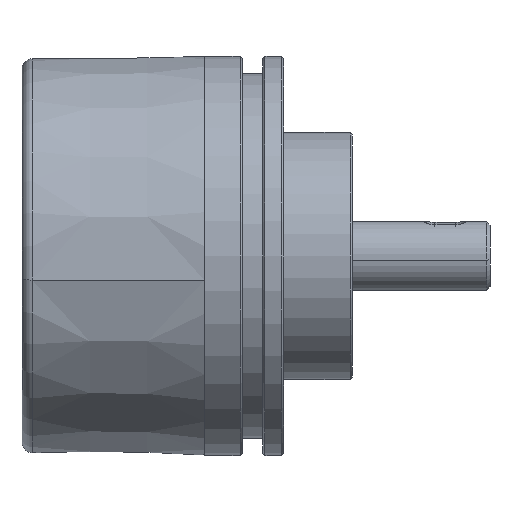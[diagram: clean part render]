
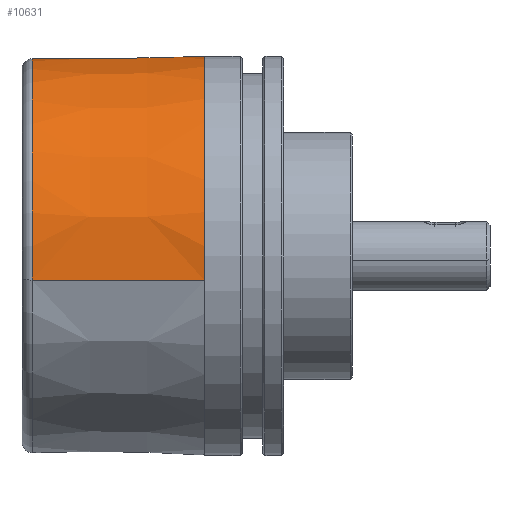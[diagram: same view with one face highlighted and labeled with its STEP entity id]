
A CAD part, front view. The second image highlights one B-rep face of the part: STEP entity #10631.
In plain terms, the highlighted conical face has half-angle 0.75 degrees and reference radius 29 mm.
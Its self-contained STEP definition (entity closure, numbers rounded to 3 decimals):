
#2229 = DIRECTION ( 'NONE',  ( 0., 0.993, 0.122 ) ) ;
#2230 = DIRECTION ( 'NONE',  ( 1., 0., 0. ) ) ;
#2231 = CARTESIAN_POINT ( 'NONE',  ( -17.52, 0., 0. ) ) ;
#2232 = AXIS2_PLACEMENT_3D ( 'NONE', #2231, #2230, #2229 ) ;
#2233 = CIRCLE ( 'NONE', #2232, 28.672 ) ;
#2234 = CARTESIAN_POINT ( 'NONE',  ( -17.52, 21.923, 18.479 ) ) ;
#2235 = CARTESIAN_POINT ( 'NONE',  ( -17.52, -28.459, -3.494 ) ) ;
#2284 = CARTESIAN_POINT ( 'NONE',  ( -17.52, 21.923, 18.479 ) ) ;
#2285 = CARTESIAN_POINT ( 'NONE',  ( -14.179, 21.982, 18.477 ) ) ;
#2286 = CARTESIAN_POINT ( 'NONE',  ( -10.838, 22.04, 18.476 ) ) ;
#2287 = CARTESIAN_POINT ( 'NONE',  ( -7.498, 22.099, 18.474 ) ) ;
#2288 = CARTESIAN_POINT ( 'NONE',  ( -3.498, 22.169, 18.472 ) ) ;
#2289 = CARTESIAN_POINT ( 'NONE',  ( 0.501, 22.238, 18.47 ) ) ;
#2290 = CARTESIAN_POINT ( 'NONE',  ( 4.5, 22.308, 18.469 ) ) ;
#2291 = CARTESIAN_POINT ( 'NONE',  ( 5.5, 22.325, 18.468 ) ) ;
#2292 = CARTESIAN_POINT ( 'NONE',  ( 6.5, 22.343, 18.468 ) ) ;
#2293 = CARTESIAN_POINT ( 'NONE',  ( 7.5, 22.36, 18.467 ) ) ;
#2302 = B_SPLINE_CURVE_WITH_KNOTS ( 'NONE', 3,
 ( #2293, #2292, #2291, #2290, #2289, #2288, #2287, #2286, #2285, #2284 ),
 .UNSPECIFIED., .F., .F.,
 ( 4, 3, 3, 4 ),
 ( 0., 0.003, 0.015, 0.025 ),
 .UNSPECIFIED. ) ;
#2429 = FACE_OUTER_BOUND ( 'NONE', #10632, .T. ) ;
#2453 = CARTESIAN_POINT ( 'NONE',  ( 7.5, -28.784, -3.534 ) ) ;
#2454 = DIRECTION ( 'NONE',  ( 1., -0.013, -0.002 ) ) ;
#2455 = VECTOR ( 'NONE', #2454, 1000. ) ;
#2456 = CARTESIAN_POINT ( 'NONE',  ( 7.5, -28.784, -3.534 ) ) ;
#2457 = LINE ( 'NONE', #2456, #2455 ) ;
#2458 = DIRECTION ( 'NONE',  ( 0., -0.993, -0.122 ) ) ;
#2459 = DIRECTION ( 'NONE',  ( 1., 0., 0. ) ) ;
#2460 = CARTESIAN_POINT ( 'NONE',  ( 7.5, 0., 0. ) ) ;
#2461 = AXIS2_PLACEMENT_3D ( 'NONE', #2460, #2459, #2458 ) ;
#2462 = CONICAL_SURFACE ( 'NONE', #2461, 29., 0.013 ) ;
#2506 = DIRECTION ( 'NONE',  ( 0., 0.993, 0.122 ) ) ;
#2507 = DIRECTION ( 'NONE',  ( -1., 0., 0. ) ) ;
#2508 = CARTESIAN_POINT ( 'NONE',  ( 7.5, 0., 0. ) ) ;
#2509 = AXIS2_PLACEMENT_3D ( 'NONE', #2508, #2507, #2506 ) ;
#2510 = CIRCLE ( 'NONE', #2509, 29. ) ;
#2511 = CARTESIAN_POINT ( 'NONE',  ( 7.5, 22.36, 18.467 ) ) ;
#10563 = VERTEX_POINT ( 'NONE', #2235 ) ;
#10565 = EDGE_CURVE ( 'NONE', #10566, #10563, #2233, .T. ) ;
#10566 = VERTEX_POINT ( 'NONE', #2234 ) ;
#10583 = ORIENTED_EDGE ( 'NONE', *, *, #10584, .T. ) ;
#10584 = EDGE_CURVE ( 'NONE', #10639, #10566, #2302, .T. ) ;
#10631 = ADVANCED_FACE ( 'NONE', ( #2429 ), #2462, .T. ) ;
#10632 = EDGE_LOOP ( 'NONE', ( #10633, #10634, #10637, #10583 ) ) ;
#10633 = ORIENTED_EDGE ( 'NONE', *, *, #10565, .T. ) ;
#10634 = ORIENTED_EDGE ( 'NONE', *, *, #10635, .T. ) ;
#10635 = EDGE_CURVE ( 'NONE', #10563, #10636, #2457, .T. ) ;
#10636 = VERTEX_POINT ( 'NONE', #2453 ) ;
#10637 = ORIENTED_EDGE ( 'NONE', *, *, #10638, .T. ) ;
#10638 = EDGE_CURVE ( 'NONE', #10636, #10639, #2510, .T. ) ;
#10639 = VERTEX_POINT ( 'NONE', #2511 ) ;
